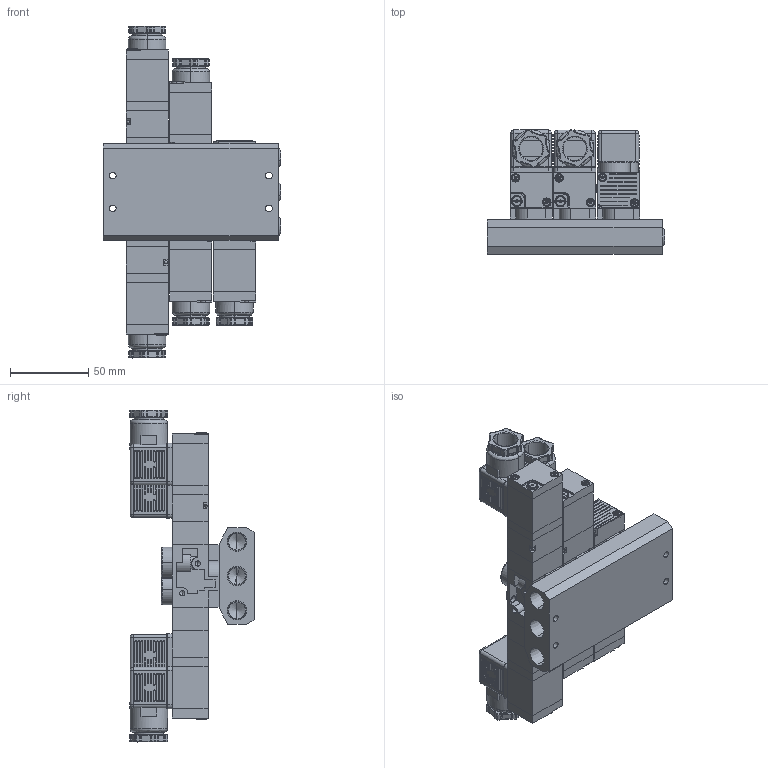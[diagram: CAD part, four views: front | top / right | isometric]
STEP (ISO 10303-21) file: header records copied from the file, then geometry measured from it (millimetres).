
FILE_DESCRIPTION (( 'STEP AP203' ), '1' );
FILE_NAME ('MFU#-RC06-02-C.STEP', '2016-02-04T05:38:40', ( 'Sam Lin' ), ( '' ), 'SwSTEP 2.0', 'SolidWorks 2013', '' );
FILE_SCHEMA (( 'CONFIG_CONTROL_DESIGN' ));
Length unit declared in the file: metre
Products named in the file (17): RC06-8=6; PCS2406-3-小圓珠; RC06-2; PC6-M4; 承頭; PCS2406-9; MFU#-RC06-02-C; PC6-M3; MFU#-RC06-02; RC06-4; RC06-墊片; RC06-5; PC06-MARK; PCS2406-3-C; RC06-1; RC06-7=15; RC06-3
Assembly tree (65 placements, depth 2):
  MFU#-RC06-02-C
    MFU#-RC06-02
    RC06-墊片  x3
    PC06-MARK  x3
    RC06-1  x3
    RC06-3  x5
    PCS2406-3-小圓珠  x5
    PC6-M4  x5
    PCS2406-9  x5
    PC6-M3  x12
    RC06-4  x5
    RC06-5  x5
    PCS2406-3-C  x5
    RC06-7=15  x2
    RC06-8=6  x2
    RC06-2
    承頭  x3
Bounding box: 113.51 x 79.64 x 212.7 mm (x, y, z)
Volume: 523893 mm3; surface area: 159149.8 mm2
Topology: 83 solids, 83 shells, 3291 faces, 8482 edges, 4839 vertices
Faces by surface type: plane 1169, cylinder 953, bspline 916, cone 253
Entity records: 33833 total; most frequent: CARTESIAN_POINT 12860, ORIENTED_EDGE 3792, DIRECTION 3542, EDGE_CURVE 1896, AXIS2_PLACEMENT_3D 1295, VERTEX_POINT 1208, VECTOR 952, LINE 952
